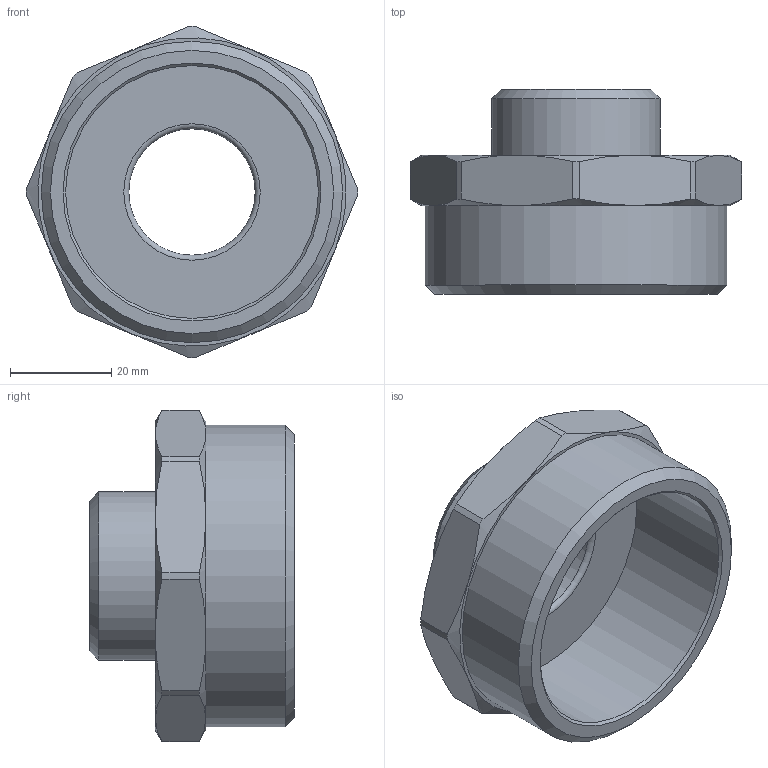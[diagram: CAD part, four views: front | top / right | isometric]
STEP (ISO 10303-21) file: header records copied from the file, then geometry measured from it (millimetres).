
FILE_DESCRIPTION(('STEP AP203'), '1');
FILE_NAME('ÂÐ.753157.013 - VTr.580.N.0906 Íèïïåëü G2xG1', '2024-07-03T10:24:44', ('Boss'), (''), 'C3D Converter', 'C3D Toolkit', '');
FILE_SCHEMA(('CONFIG_CONTROL_DESIGN'));
Length unit declared in the file: millimetre
Products named in the file (1): ВР.753157.013
Bounding box: 65.5 x 40.5 x 65.5 mm (x, y, z)
Volume: 35814.6 mm3; surface area: 16292.1 mm2
Topology: 1 solids, 1 shells, 40 faces, 90 edges, 55 vertices
Faces by surface type: cone 14, plane 13, cylinder 12, torus 1
Full cylindrical faces by diameter (mm): 25 x1, 33.249 x1, 50 x1, 59.614 x1
Entity records: 1673 total; most frequent: CARTESIAN_POINT 799, DIRECTION 176, ORIENTED_EDGE 162, EDGE_CURVE 81, AXIS2_PLACEMENT_3D 80, VERTEX_POINT 55, EDGE_LOOP 54, ADVANCED_FACE 40
